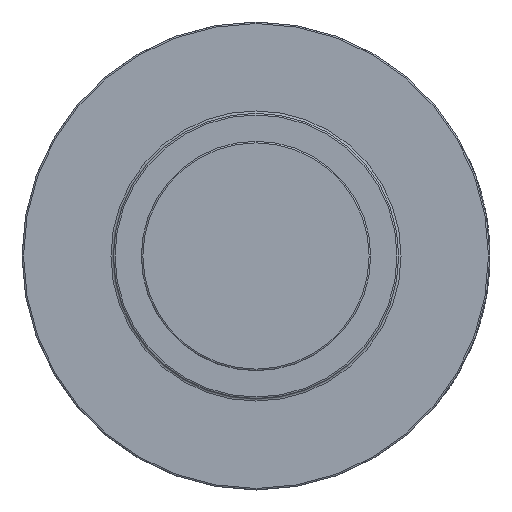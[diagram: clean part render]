
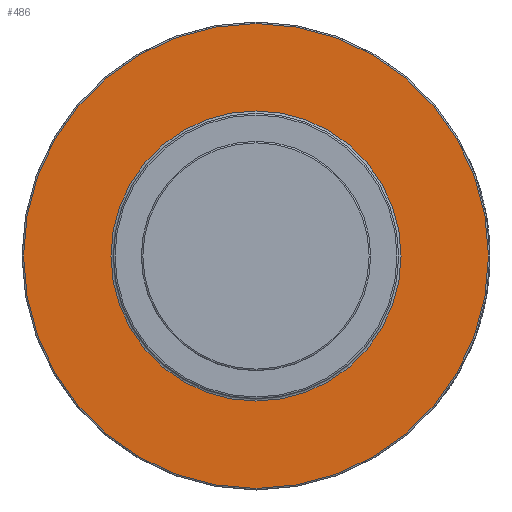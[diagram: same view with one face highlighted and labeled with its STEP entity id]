
A CAD part, left-side view. The second image highlights one B-rep face of the part: STEP entity #486.
In plain terms, the highlighted planar face has unit normal (-1, 0, 0).
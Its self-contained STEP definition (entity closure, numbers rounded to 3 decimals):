
#486 = ADVANCED_FACE( '', ( #1093, #1094 ), #1095, .F. );
#1093 = FACE_BOUND( '', #2346, .T. );
#1094 = FACE_OUTER_BOUND( '', #2347, .T. );
#1095 = PLANE( '', #2348 );
#2346 = EDGE_LOOP( '', ( #4605 ) );
#2347 = EDGE_LOOP( '', ( #4606 ) );
#2348 = AXIS2_PLACEMENT_3D( '', #4607, #4608, #4609 );
#4605 = ORIENTED_EDGE( '', *, *, #5470, .F. );
#4606 = ORIENTED_EDGE( '', *, *, #5884, .T. );
#4607 = CARTESIAN_POINT( '', ( 42.85, 0., 48.685 ) );
#4608 = DIRECTION( '', ( 1., 0., 0. ) );
#4609 = DIRECTION( '', ( 0., 0., -1. ) );
#5470 = EDGE_CURVE( '', #6332, #6332, #6333, .T. );
#5884 = EDGE_CURVE( '', #6966, #6966, #6967, .T. );
#6332 = VERTEX_POINT( '', #7755 );
#6333 = CIRCLE( '', #7756, 48.685 );
#6966 = VERTEX_POINT( '', #9580 );
#6967 = CIRCLE( '', #9581, 78.016 );
#7755 = CARTESIAN_POINT( '', ( 42.85, 0., 48.685 ) );
#7756 = AXIS2_PLACEMENT_3D( '', #9972, #9973, #9974 );
#9580 = CARTESIAN_POINT( '', ( 42.85, 0., 78.016 ) );
#9581 = AXIS2_PLACEMENT_3D( '', #10008, #10009, #10010 );
#9972 = CARTESIAN_POINT( '', ( 42.85, 0., 0. ) );
#9973 = DIRECTION( '', ( -1., 0., 0. ) );
#9974 = DIRECTION( '', ( 0., 0., 1. ) );
#10008 = CARTESIAN_POINT( '', ( 42.85, 0., 0. ) );
#10009 = DIRECTION( '', ( -1., 0., 0. ) );
#10010 = DIRECTION( '', ( 0., 0., 1. ) );
